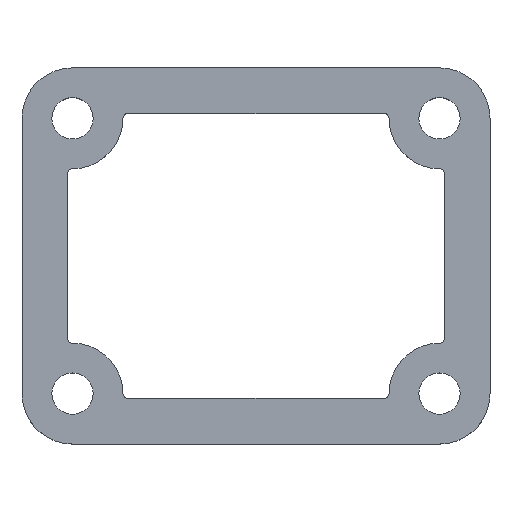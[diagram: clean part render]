
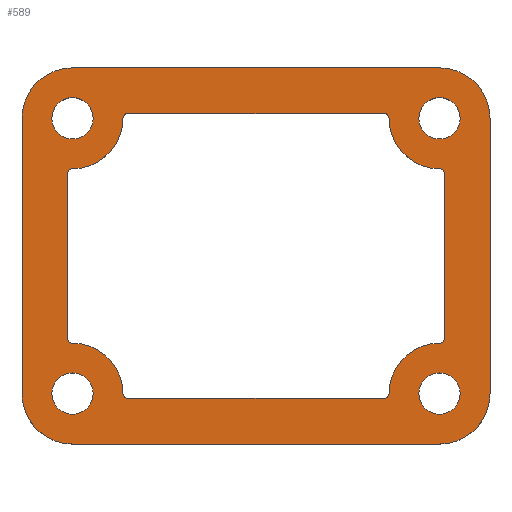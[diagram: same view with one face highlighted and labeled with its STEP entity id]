
A CAD part, top view. The second image highlights one B-rep face of the part: STEP entity #589.
In plain terms, the highlighted planar face has unit normal (0, 0, 1).
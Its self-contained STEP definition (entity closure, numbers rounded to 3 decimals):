
#15=FACE_BOUND('',#144,.T.);
#16=FACE_BOUND('',#145,.T.);
#17=FACE_BOUND('',#146,.T.);
#18=FACE_BOUND('',#147,.T.);
#19=FACE_BOUND('',#148,.T.);
#26=CIRCLE('',#608,1.);
#28=CIRCLE('',#611,11.);
#30=CIRCLE('',#614,1.);
#32=CIRCLE('',#618,1.);
#34=CIRCLE('',#621,11.);
#36=CIRCLE('',#624,1.);
#38=CIRCLE('',#628,1.);
#40=CIRCLE('',#631,11.);
#42=CIRCLE('',#634,1.);
#44=CIRCLE('',#638,1.);
#46=CIRCLE('',#641,11.);
#48=CIRCLE('',#644,1.);
#49=CIRCLE('',#646,4.5);
#51=CIRCLE('',#649,4.5);
#53=CIRCLE('',#652,4.5);
#55=CIRCLE('',#655,4.5);
#58=CIRCLE('',#659,11.);
#60=CIRCLE('',#663,11.);
#62=CIRCLE('',#667,11.);
#64=CIRCLE('',#671,11.);
#113=FACE_OUTER_BOUND('',#143,.T.);
#143=EDGE_LOOP('',(#495,#496,#497,#498,#499,#500,#501,#502));
#144=EDGE_LOOP('',(#503));
#145=EDGE_LOOP('',(#504));
#146=EDGE_LOOP('',(#505));
#147=EDGE_LOOP('',(#506));
#148=EDGE_LOOP('',(#507,#508,#509,#510,#511,#512,#513,#514,#515,#516,#517,
#518,#519,#520,#521,#522));
#157=LINE('',#869,#201);
#163=LINE('',#893,#207);
#169=LINE('',#917,#213);
#175=LINE('',#941,#219);
#186=LINE('',#995,#230);
#190=LINE('',#1007,#234);
#194=LINE('',#1019,#238);
#198=LINE('',#1029,#242);
#201=VECTOR('',#681,10.);
#207=VECTOR('',#707,10.);
#213=VECTOR('',#733,10.);
#219=VECTOR('',#759,10.);
#230=VECTOR('',#820,10.);
#234=VECTOR('',#832,10.);
#238=VECTOR('',#844,10.);
#242=VECTOR('',#856,10.);
#245=VERTEX_POINT('',#866);
#246=VERTEX_POINT('',#868);
#248=VERTEX_POINT('',#874);
#250=VERTEX_POINT('',#880);
#252=VERTEX_POINT('',#886);
#254=VERTEX_POINT('',#892);
#256=VERTEX_POINT('',#898);
#258=VERTEX_POINT('',#904);
#260=VERTEX_POINT('',#910);
#262=VERTEX_POINT('',#916);
#264=VERTEX_POINT('',#922);
#266=VERTEX_POINT('',#928);
#268=VERTEX_POINT('',#934);
#270=VERTEX_POINT('',#940);
#272=VERTEX_POINT('',#946);
#274=VERTEX_POINT('',#952);
#275=VERTEX_POINT('',#959);
#277=VERTEX_POINT('',#965);
#279=VERTEX_POINT('',#971);
#281=VERTEX_POINT('',#977);
#285=VERTEX_POINT('',#986);
#286=VERTEX_POINT('',#988);
#288=VERTEX_POINT('',#994);
#290=VERTEX_POINT('',#1000);
#292=VERTEX_POINT('',#1006);
#294=VERTEX_POINT('',#1012);
#296=VERTEX_POINT('',#1018);
#298=VERTEX_POINT('',#1024);
#301=EDGE_CURVE('',#246,#245,#157,.T.);
#304=EDGE_CURVE('',#248,#246,#26,.T.);
#307=EDGE_CURVE('',#250,#248,#28,.T.);
#310=EDGE_CURVE('',#252,#250,#30,.T.);
#313=EDGE_CURVE('',#254,#252,#163,.T.);
#316=EDGE_CURVE('',#256,#254,#32,.T.);
#319=EDGE_CURVE('',#258,#256,#34,.T.);
#322=EDGE_CURVE('',#260,#258,#36,.T.);
#325=EDGE_CURVE('',#262,#260,#169,.T.);
#328=EDGE_CURVE('',#264,#262,#38,.T.);
#331=EDGE_CURVE('',#266,#264,#40,.T.);
#334=EDGE_CURVE('',#268,#266,#42,.T.);
#337=EDGE_CURVE('',#270,#268,#175,.T.);
#340=EDGE_CURVE('',#272,#270,#44,.T.);
#343=EDGE_CURVE('',#274,#272,#46,.T.);
#346=EDGE_CURVE('',#245,#274,#48,.T.);
#347=EDGE_CURVE('',#275,#275,#49,.T.);
#350=EDGE_CURVE('',#277,#277,#51,.T.);
#353=EDGE_CURVE('',#279,#279,#53,.T.);
#356=EDGE_CURVE('',#281,#281,#55,.T.);
#361=EDGE_CURVE('',#286,#285,#58,.T.);
#364=EDGE_CURVE('',#288,#286,#186,.T.);
#367=EDGE_CURVE('',#290,#288,#60,.T.);
#370=EDGE_CURVE('',#292,#290,#190,.T.);
#373=EDGE_CURVE('',#294,#292,#62,.T.);
#376=EDGE_CURVE('',#296,#294,#194,.T.);
#379=EDGE_CURVE('',#298,#296,#64,.T.);
#382=EDGE_CURVE('',#285,#298,#198,.T.);
#495=ORIENTED_EDGE('',*,*,#382,.T.);
#496=ORIENTED_EDGE('',*,*,#379,.T.);
#497=ORIENTED_EDGE('',*,*,#376,.T.);
#498=ORIENTED_EDGE('',*,*,#373,.T.);
#499=ORIENTED_EDGE('',*,*,#370,.T.);
#500=ORIENTED_EDGE('',*,*,#367,.T.);
#501=ORIENTED_EDGE('',*,*,#364,.T.);
#502=ORIENTED_EDGE('',*,*,#361,.T.);
#503=ORIENTED_EDGE('',*,*,#356,.T.);
#504=ORIENTED_EDGE('',*,*,#353,.T.);
#505=ORIENTED_EDGE('',*,*,#350,.T.);
#506=ORIENTED_EDGE('',*,*,#347,.T.);
#507=ORIENTED_EDGE('',*,*,#346,.T.);
#508=ORIENTED_EDGE('',*,*,#343,.T.);
#509=ORIENTED_EDGE('',*,*,#340,.T.);
#510=ORIENTED_EDGE('',*,*,#337,.T.);
#511=ORIENTED_EDGE('',*,*,#334,.T.);
#512=ORIENTED_EDGE('',*,*,#331,.T.);
#513=ORIENTED_EDGE('',*,*,#328,.T.);
#514=ORIENTED_EDGE('',*,*,#325,.T.);
#515=ORIENTED_EDGE('',*,*,#322,.T.);
#516=ORIENTED_EDGE('',*,*,#319,.T.);
#517=ORIENTED_EDGE('',*,*,#316,.T.);
#518=ORIENTED_EDGE('',*,*,#313,.T.);
#519=ORIENTED_EDGE('',*,*,#310,.T.);
#520=ORIENTED_EDGE('',*,*,#307,.T.);
#521=ORIENTED_EDGE('',*,*,#304,.T.);
#522=ORIENTED_EDGE('',*,*,#301,.T.);
#559=PLANE('',#673);
#589=ADVANCED_FACE('',(#113,#15,#16,#17,#18,#19),#559,.T.);
#608=AXIS2_PLACEMENT_3D('',#875,#687,#688);
#611=AXIS2_PLACEMENT_3D('',#881,#694,#695);
#614=AXIS2_PLACEMENT_3D('',#887,#701,#702);
#618=AXIS2_PLACEMENT_3D('',#899,#713,#714);
#621=AXIS2_PLACEMENT_3D('',#905,#720,#721);
#624=AXIS2_PLACEMENT_3D('',#911,#727,#728);
#628=AXIS2_PLACEMENT_3D('',#923,#739,#740);
#631=AXIS2_PLACEMENT_3D('',#929,#746,#747);
#634=AXIS2_PLACEMENT_3D('',#935,#753,#754);
#638=AXIS2_PLACEMENT_3D('',#947,#765,#766);
#641=AXIS2_PLACEMENT_3D('',#953,#772,#773);
#644=AXIS2_PLACEMENT_3D('',#957,#779,#780);
#646=AXIS2_PLACEMENT_3D('',#960,#783,#784);
#649=AXIS2_PLACEMENT_3D('',#966,#790,#791);
#652=AXIS2_PLACEMENT_3D('',#972,#797,#798);
#655=AXIS2_PLACEMENT_3D('',#978,#804,#805);
#659=AXIS2_PLACEMENT_3D('',#989,#814,#815);
#663=AXIS2_PLACEMENT_3D('',#1001,#826,#827);
#667=AXIS2_PLACEMENT_3D('',#1013,#838,#839);
#671=AXIS2_PLACEMENT_3D('',#1025,#850,#851);
#673=AXIS2_PLACEMENT_3D('',#1030,#857,#858);
#681=DIRECTION('',(0.,1.,0.));
#687=DIRECTION('center_axis',(0.,0.,-1.));
#688=DIRECTION('ref_axis',(0.,-1.,0.));
#694=DIRECTION('center_axis',(0.,0.,1.));
#695=DIRECTION('ref_axis',(1.,0.,0.));
#701=DIRECTION('center_axis',(0.,0.,-1.));
#702=DIRECTION('ref_axis',(0.,-1.,0.));
#707=DIRECTION('',(-1.,0.,0.));
#713=DIRECTION('center_axis',(0.,0.,-1.));
#714=DIRECTION('ref_axis',(1.,0.,0.));
#720=DIRECTION('center_axis',(0.,0.,1.));
#721=DIRECTION('ref_axis',(0.,1.,0.));
#727=DIRECTION('center_axis',(0.,0.,-1.));
#728=DIRECTION('ref_axis',(1.,0.,0.));
#733=DIRECTION('',(0.,-1.,0.));
#739=DIRECTION('center_axis',(0.,0.,-1.));
#740=DIRECTION('ref_axis',(0.,1.,0.));
#746=DIRECTION('center_axis',(0.,0.,1.));
#747=DIRECTION('ref_axis',(-1.,0.,0.));
#753=DIRECTION('center_axis',(0.,0.,-1.));
#754=DIRECTION('ref_axis',(0.,1.,0.));
#759=DIRECTION('',(1.,0.,0.));
#765=DIRECTION('center_axis',(0.,0.,-1.));
#766=DIRECTION('ref_axis',(-1.,0.,0.));
#772=DIRECTION('center_axis',(0.,0.,1.));
#773=DIRECTION('ref_axis',(0.,-1.,0.));
#779=DIRECTION('center_axis',(0.,0.,-1.));
#780=DIRECTION('ref_axis',(-1.,0.,0.));
#783=DIRECTION('center_axis',(0.,0.,-1.));
#784=DIRECTION('ref_axis',(1.,0.,0.));
#790=DIRECTION('center_axis',(0.,0.,-1.));
#791=DIRECTION('ref_axis',(1.,0.,0.));
#797=DIRECTION('center_axis',(0.,0.,-1.));
#798=DIRECTION('ref_axis',(1.,0.,0.));
#804=DIRECTION('center_axis',(0.,0.,-1.));
#805=DIRECTION('ref_axis',(1.,0.,0.));
#814=DIRECTION('center_axis',(0.,0.,1.));
#815=DIRECTION('ref_axis',(0.,-1.,0.));
#820=DIRECTION('',(0.,-1.,0.));
#826=DIRECTION('center_axis',(0.,0.,1.));
#827=DIRECTION('ref_axis',(-1.,0.,0.));
#832=DIRECTION('',(-1.,0.,0.));
#838=DIRECTION('center_axis',(0.,0.,1.));
#839=DIRECTION('ref_axis',(0.,1.,0.));
#844=DIRECTION('',(0.,1.,0.));
#850=DIRECTION('center_axis',(0.,0.,1.));
#851=DIRECTION('ref_axis',(1.,0.,0.));
#856=DIRECTION('',(1.,0.,0.));
#857=DIRECTION('center_axis',(0.,0.,1.));
#858=DIRECTION('ref_axis',(1.,0.,0.));
#866=CARTESIAN_POINT('',(88.001,121.019,12.7));
#868=CARTESIAN_POINT('',(88.001,85.019,12.7));
#869=CARTESIAN_POINT('',(88.001,85.019,12.7));
#874=CARTESIAN_POINT('',(89.001,84.019,12.7));
#875=CARTESIAN_POINT('Origin',(89.001,85.019,12.7));
#880=CARTESIAN_POINT('',(100.001,73.019,12.7));
#881=CARTESIAN_POINT('Origin',(89.001,73.019,12.7));
#886=CARTESIAN_POINT('',(101.001,72.019,12.7));
#887=CARTESIAN_POINT('Origin',(101.001,73.019,12.7));
#892=CARTESIAN_POINT('',(157.001,72.019,12.7));
#893=CARTESIAN_POINT('',(157.001,72.019,12.7));
#898=CARTESIAN_POINT('',(158.001,73.019,12.7));
#899=CARTESIAN_POINT('Origin',(157.001,73.019,12.7));
#904=CARTESIAN_POINT('',(169.001,84.019,12.7));
#905=CARTESIAN_POINT('Origin',(169.001,73.019,12.7));
#910=CARTESIAN_POINT('',(170.001,85.019,12.7));
#911=CARTESIAN_POINT('Origin',(169.001,85.019,12.7));
#916=CARTESIAN_POINT('',(170.001,121.019,12.7));
#917=CARTESIAN_POINT('',(170.001,121.019,12.7));
#922=CARTESIAN_POINT('',(169.001,122.019,12.7));
#923=CARTESIAN_POINT('Origin',(169.001,121.019,12.7));
#928=CARTESIAN_POINT('',(158.001,133.019,12.7));
#929=CARTESIAN_POINT('Origin',(169.001,133.019,12.7));
#934=CARTESIAN_POINT('',(157.001,134.019,12.7));
#935=CARTESIAN_POINT('Origin',(157.001,133.019,12.7));
#940=CARTESIAN_POINT('',(101.001,134.019,12.7));
#941=CARTESIAN_POINT('',(101.001,134.019,12.7));
#946=CARTESIAN_POINT('',(100.001,133.019,12.7));
#947=CARTESIAN_POINT('Origin',(101.001,133.019,12.7));
#952=CARTESIAN_POINT('',(89.001,122.019,12.7));
#953=CARTESIAN_POINT('Origin',(89.001,133.019,12.7));
#957=CARTESIAN_POINT('Origin',(89.001,121.019,12.7));
#959=CARTESIAN_POINT('',(164.501,133.019,12.7));
#960=CARTESIAN_POINT('Origin',(169.001,133.019,12.7));
#965=CARTESIAN_POINT('',(164.501,73.019,12.7));
#966=CARTESIAN_POINT('Origin',(169.001,73.019,12.7));
#971=CARTESIAN_POINT('',(84.501,133.019,12.7));
#972=CARTESIAN_POINT('Origin',(89.001,133.019,12.7));
#977=CARTESIAN_POINT('',(84.501,73.019,12.7));
#978=CARTESIAN_POINT('Origin',(89.001,73.019,12.7));
#986=CARTESIAN_POINT('',(89.001,62.019,12.7));
#988=CARTESIAN_POINT('',(78.001,73.019,12.7));
#989=CARTESIAN_POINT('Origin',(89.001,73.019,12.7));
#994=CARTESIAN_POINT('',(78.001,133.019,12.7));
#995=CARTESIAN_POINT('',(78.001,73.019,12.7));
#1000=CARTESIAN_POINT('',(89.001,144.019,12.7));
#1001=CARTESIAN_POINT('Origin',(89.001,133.019,12.7));
#1006=CARTESIAN_POINT('',(169.001,144.019,12.7));
#1007=CARTESIAN_POINT('',(89.001,144.019,12.7));
#1012=CARTESIAN_POINT('',(180.001,133.019,12.7));
#1013=CARTESIAN_POINT('Origin',(169.001,133.019,12.7));
#1018=CARTESIAN_POINT('',(180.001,73.019,12.7));
#1019=CARTESIAN_POINT('',(180.001,133.019,12.7));
#1024=CARTESIAN_POINT('',(169.001,62.019,12.7));
#1025=CARTESIAN_POINT('Origin',(169.001,73.019,12.7));
#1029=CARTESIAN_POINT('',(169.001,62.019,12.7));
#1030=CARTESIAN_POINT('Origin',(129.001,103.019,12.7));
